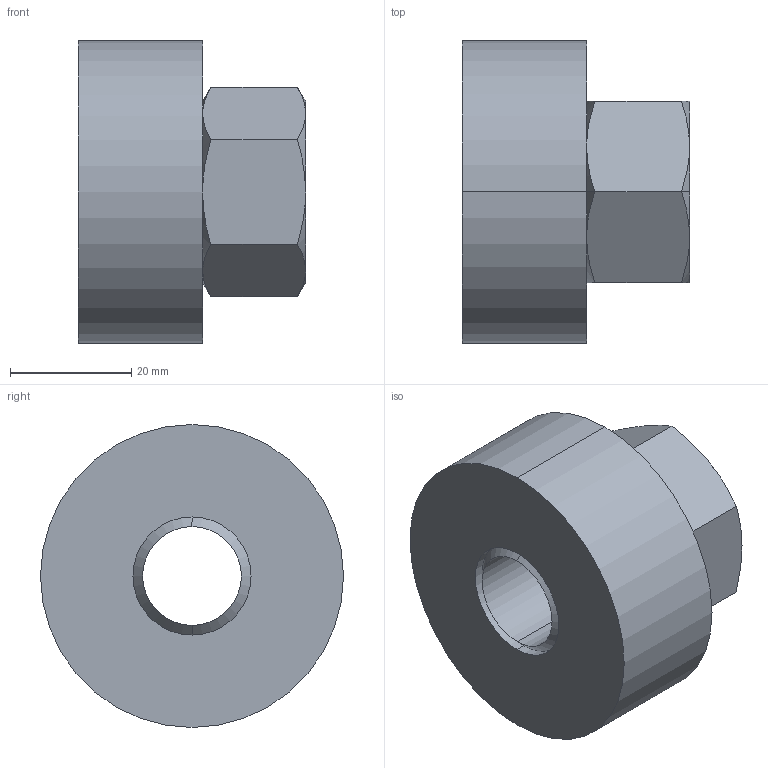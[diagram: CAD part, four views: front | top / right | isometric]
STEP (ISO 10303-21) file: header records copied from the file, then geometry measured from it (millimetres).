
FILE_DESCRIPTION(('starvars output'),'2;1');
FILE_NAME('E43002_3.stp','15:57:05 2007/04/16',( 'Thomas Industrial Network Germany GmbH'),( 'Thomas Industrial Network Germany GmbH'),'unknown preprocess','ACIS' ,'unknown authorization');
FILE_SCHEMA(('CONFIG_CONTROL_DESIGN {UNKNOWN IMPLEMENTATION LEVEL}'));
Length unit declared in the file: millimetre
Products named in the file (1): PRODUCT_ID_37
Bounding box: 37.5 x 50 x 50 mm (x, y, z)
Volume: 44451.4 mm3; surface area: 10742.9 mm2
Topology: 1 solids, 1 shells, 36 faces, 76 edges, 44 vertices
Faces by surface type: cone 18, plane 10, cylinder 8
Entity records: 837 total; most frequent: CARTESIAN_POINT 168, ORIENTED_EDGE 152, DIRECTION 84, EDGE_CURVE 76, VERTEX_POINT 44, EDGE_LOOP 40, FACE_BOUND 40, ADVANCED_FACE 36
